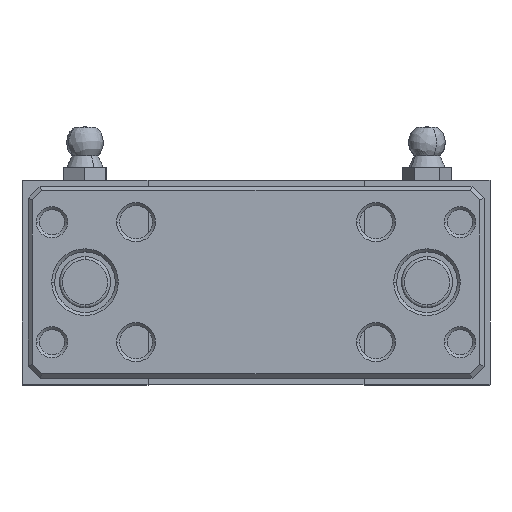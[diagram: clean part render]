
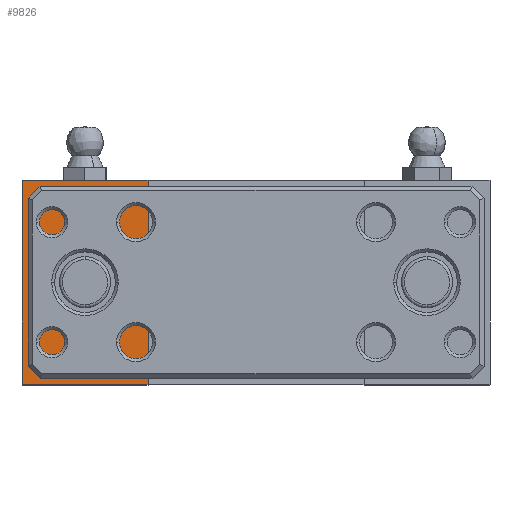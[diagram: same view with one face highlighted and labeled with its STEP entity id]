
A CAD part, top view. The second image highlights one B-rep face of the part: STEP entity #9826.
In plain terms, the highlighted planar face has unit normal (0, 0, 1).
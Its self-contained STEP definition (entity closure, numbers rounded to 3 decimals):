
#629 = LINE ( 'NONE', #14190, #2803 ) ;
#736 = DIRECTION ( 'NONE',  ( 0., 1., 0. ) ) ;
#884 = LINE ( 'NONE', #13731, #3393 ) ;
#1252 = CARTESIAN_POINT ( 'NONE',  ( -39., -17., -15. ) ) ;
#2106 = VECTOR ( 'NONE', #736, 1000. ) ;
#2803 = VECTOR ( 'NONE', #6080, 1000. ) ;
#2840 = EDGE_CURVE ( 'NONE', #7264, #8370, #629, .T. ) ;
#3095 = ORIENTED_EDGE ( 'NONE', *, *, #3842, .T. ) ;
#3147 = CARTESIAN_POINT ( 'NONE',  ( -18., 17., -15. ) ) ;
#3393 = VECTOR ( 'NONE', #23647, 1000. ) ;
#3842 = EDGE_CURVE ( 'NONE', #20396, #8158, #884, .T. ) ;
#4325 = EDGE_CURVE ( 'NONE', #8370, #8158, #19191, .T. ) ;
#4544 = DIRECTION ( 'NONE',  ( 0., 1., 0. ) ) ;
#6080 = DIRECTION ( 'NONE',  ( -1., 0., 0. ) ) ;
#6459 = ORIENTED_EDGE ( 'NONE', *, *, #10381, .T. ) ;
#7264 = VERTEX_POINT ( 'NONE', #16517 ) ;
#8158 = VERTEX_POINT ( 'NONE', #10116 ) ;
#8370 = VERTEX_POINT ( 'NONE', #15606 ) ;
#8960 = LINE ( 'NONE', #16645, #2106 ) ;
#9022 = EDGE_LOOP ( 'NONE', ( #24391, #15090, #6459, #3095 ) ) ;
#9461 = AXIS2_PLACEMENT_3D ( 'NONE', #16442, #12620, #4544 ) ;
#9826 = ADVANCED_FACE ( 'NONE', ( #17979 ), #22253, .T. ) ;
#10116 = CARTESIAN_POINT ( 'NONE',  ( -39., 17., -15. ) ) ;
#10381 = EDGE_CURVE ( 'NONE', #7264, #20396, #8960, .T. ) ;
#12620 = DIRECTION ( 'NONE',  ( 0., 0., 1. ) ) ;
#13731 = CARTESIAN_POINT ( 'NONE',  ( -18., 17., -15. ) ) ;
#14190 = CARTESIAN_POINT ( 'NONE',  ( -18., -17., -15. ) ) ;
#15090 = ORIENTED_EDGE ( 'NONE', *, *, #2840, .F. ) ;
#15221 = DIRECTION ( 'NONE',  ( 0., 1., 0. ) ) ;
#15606 = CARTESIAN_POINT ( 'NONE',  ( -39., -17., -15. ) ) ;
#16386 = VECTOR ( 'NONE', #15221, 1000. ) ;
#16442 = CARTESIAN_POINT ( 'NONE',  ( -18., -17., -15. ) ) ;
#16517 = CARTESIAN_POINT ( 'NONE',  ( -18., -17., -15. ) ) ;
#16645 = CARTESIAN_POINT ( 'NONE',  ( -18., -17., -15. ) ) ;
#17979 = FACE_OUTER_BOUND ( 'NONE', #9022, .T. ) ;
#19191 = LINE ( 'NONE', #1252, #16386 ) ;
#20396 = VERTEX_POINT ( 'NONE', #3147 ) ;
#22253 = PLANE ( 'NONE',  #9461 ) ;
#23647 = DIRECTION ( 'NONE',  ( -1., 0., 0. ) ) ;
#24391 = ORIENTED_EDGE ( 'NONE', *, *, #4325, .F. ) ;
